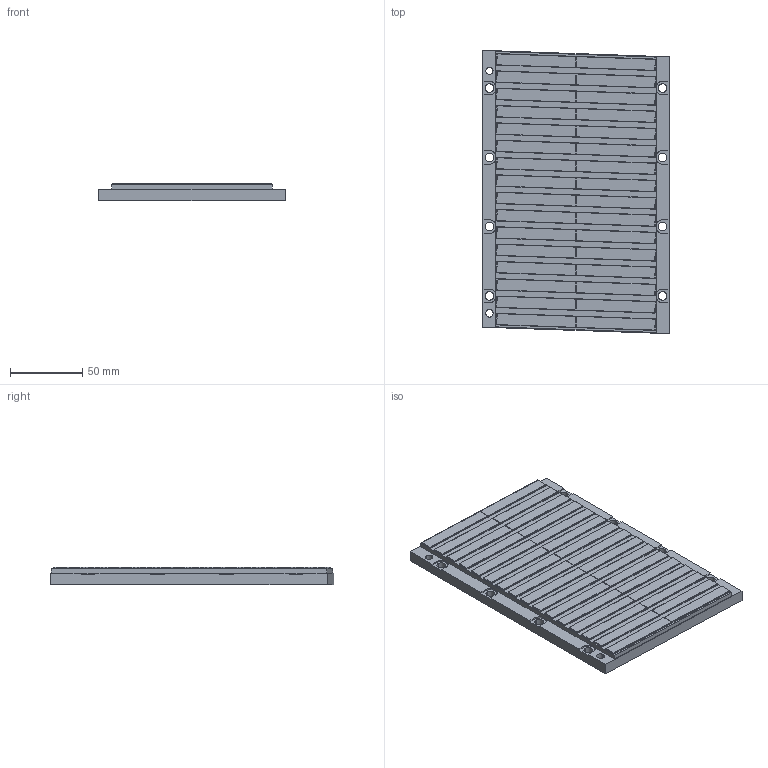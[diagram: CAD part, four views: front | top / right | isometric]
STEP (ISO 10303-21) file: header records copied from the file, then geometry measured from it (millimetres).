
FILE_DESCRIPTION (( 'STEP AP203' ), '1' );
FILE_NAME ('MP129-192 3d.STEP', '2020-10-22T07:34:24', ( '' ), ( '' ), 'SwSTEP 2.0', 'SolidWorks 2018', '' );
FILE_SCHEMA (( 'CONFIG_CONTROL_DESIGN' ));
Length unit declared in the file: millimetre
Products named in the file (1): MP129-192 3d
Bounding box: 129 x 196.35 x 12 mm (x, y, z)
Volume: 273043.5 mm3; surface area: 60826.9 mm2
Topology: 1 solids, 1 shells, 597 faces, 1433 edges, 726 vertices
Faces by surface type: cylinder 289, plane 180, sphere 128
Entity records: 16114 total; most frequent: DIRECTION 3095, CARTESIAN_POINT 2629, ORIENTED_EDGE 2610, EDGE_CURVE 1305, AXIS2_PLACEMENT_3D 1192, VERTEX_POINT 726, LINE 711, VECTOR 711
